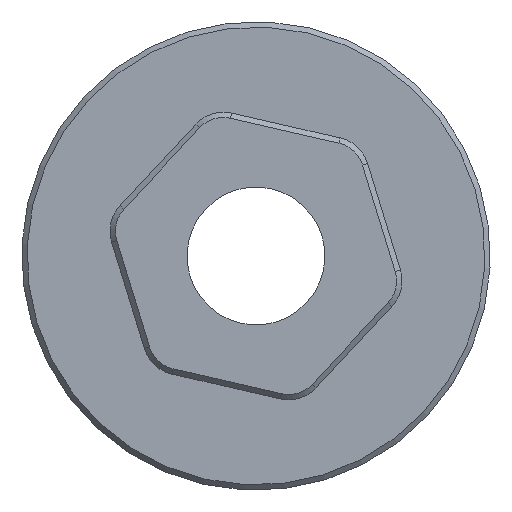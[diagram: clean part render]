
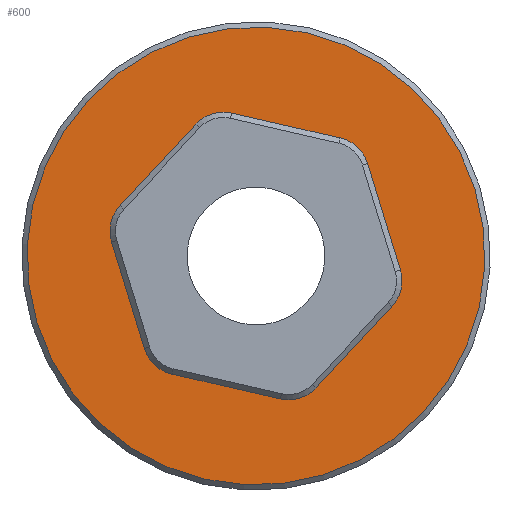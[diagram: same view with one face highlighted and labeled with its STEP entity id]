
A CAD part, left-side view. The second image highlights one B-rep face of the part: STEP entity #600.
In plain terms, the highlighted planar face has unit normal (-1, 0, 0).
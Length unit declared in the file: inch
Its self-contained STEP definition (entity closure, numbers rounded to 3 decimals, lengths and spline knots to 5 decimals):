
#28=FACE_BOUND('',#212,.T.);
#33=PLANE('',#670);
#54=LINE('',#973,#104);
#55=LINE('',#977,#105);
#56=LINE('',#981,#106);
#57=LINE('',#985,#107);
#58=LINE('',#989,#108);
#59=LINE('',#993,#109);
#104=VECTOR('',#785,0.3937);
#105=VECTOR('',#788,0.3937);
#106=VECTOR('',#791,0.3937);
#107=VECTOR('',#794,0.3937);
#108=VECTOR('',#797,0.3937);
#109=VECTOR('',#800,0.3937);
#169=FACE_OUTER_BOUND('',#211,.T.);
#211=EDGE_LOOP('',(#460));
#212=EDGE_LOOP('',(#461,#462,#463,#464,#465,#466,#467,#468,#469,#470,#471,
#472));
#256=CIRCLE('',#669,0.4275);
#257=CIRCLE('',#671,0.07);
#258=CIRCLE('',#672,0.07);
#259=CIRCLE('',#673,0.07);
#260=CIRCLE('',#674,0.07);
#261=CIRCLE('',#675,0.07);
#262=CIRCLE('',#676,0.07);
#290=VERTEX_POINT('',#967);
#291=VERTEX_POINT('',#971);
#292=VERTEX_POINT('',#972);
#293=VERTEX_POINT('',#974);
#294=VERTEX_POINT('',#976);
#295=VERTEX_POINT('',#978);
#296=VERTEX_POINT('',#980);
#297=VERTEX_POINT('',#982);
#298=VERTEX_POINT('',#984);
#299=VERTEX_POINT('',#986);
#300=VERTEX_POINT('',#988);
#301=VERTEX_POINT('',#990);
#302=VERTEX_POINT('',#992);
#350=EDGE_CURVE('',#290,#290,#256,.T.);
#352=EDGE_CURVE('',#291,#292,#54,.T.);
#353=EDGE_CURVE('',#293,#292,#257,.F.);
#354=EDGE_CURVE('',#293,#294,#55,.T.);
#355=EDGE_CURVE('',#295,#294,#258,.F.);
#356=EDGE_CURVE('',#295,#296,#56,.T.);
#357=EDGE_CURVE('',#297,#296,#259,.F.);
#358=EDGE_CURVE('',#297,#298,#57,.T.);
#359=EDGE_CURVE('',#299,#298,#260,.F.);
#360=EDGE_CURVE('',#299,#300,#58,.T.);
#361=EDGE_CURVE('',#301,#300,#261,.F.);
#362=EDGE_CURVE('',#301,#302,#59,.T.);
#363=EDGE_CURVE('',#291,#302,#262,.F.);
#460=ORIENTED_EDGE('',*,*,#350,.F.);
#461=ORIENTED_EDGE('',*,*,#352,.T.);
#462=ORIENTED_EDGE('',*,*,#353,.F.);
#463=ORIENTED_EDGE('',*,*,#354,.T.);
#464=ORIENTED_EDGE('',*,*,#355,.F.);
#465=ORIENTED_EDGE('',*,*,#356,.T.);
#466=ORIENTED_EDGE('',*,*,#357,.F.);
#467=ORIENTED_EDGE('',*,*,#358,.T.);
#468=ORIENTED_EDGE('',*,*,#359,.F.);
#469=ORIENTED_EDGE('',*,*,#360,.T.);
#470=ORIENTED_EDGE('',*,*,#361,.F.);
#471=ORIENTED_EDGE('',*,*,#362,.T.);
#472=ORIENTED_EDGE('',*,*,#363,.F.);
#600=ADVANCED_FACE('',(#169,#28),#33,.F.);
#669=AXIS2_PLACEMENT_3D('',#968,#780,#781);
#670=AXIS2_PLACEMENT_3D('',#970,#783,#784);
#671=AXIS2_PLACEMENT_3D('',#975,#786,#787);
#672=AXIS2_PLACEMENT_3D('',#979,#789,#790);
#673=AXIS2_PLACEMENT_3D('',#983,#792,#793);
#674=AXIS2_PLACEMENT_3D('',#987,#795,#796);
#675=AXIS2_PLACEMENT_3D('',#991,#798,#799);
#676=AXIS2_PLACEMENT_3D('',#994,#801,#802);
#780=DIRECTION('center_axis',(1.,0.,0.));
#781=DIRECTION('ref_axis',(0.,0.733,0.681));
#783=DIRECTION('center_axis',(1.,0.,0.));
#784=DIRECTION('ref_axis',(0.,-0.733,-0.681));
#785=DIRECTION('',(0.,-0.681,0.733));
#786=DIRECTION('center_axis',(1.,0.,0.));
#787=DIRECTION('ref_axis',(0.,0.294,0.956));
#788=DIRECTION('',(0.,-0.975,-0.223));
#789=DIRECTION('center_axis',(1.,0.,0.));
#790=DIRECTION('ref_axis',(0.,-0.681,0.733));
#791=DIRECTION('',(0.,-0.294,-0.956));
#792=DIRECTION('center_axis',(1.,0.,0.));
#793=DIRECTION('ref_axis',(0.,-0.975,-0.223));
#794=DIRECTION('',(0.,0.681,-0.733));
#795=DIRECTION('center_axis',(1.,0.,0.));
#796=DIRECTION('ref_axis',(0.,-0.294,-0.956));
#797=DIRECTION('',(0.,0.975,0.223));
#798=DIRECTION('center_axis',(1.,0.,0.));
#799=DIRECTION('ref_axis',(0.,0.681,-0.733));
#800=DIRECTION('',(0.,0.294,0.956));
#801=DIRECTION('center_axis',(1.,0.,0.));
#802=DIRECTION('ref_axis',(0.,0.975,0.223));
#967=CARTESIAN_POINT('',(7.73023,0.72618,5.48791));
#968=CARTESIAN_POINT('Origin',(7.73023,1.03933,5.77893));
#970=CARTESIAN_POINT('Origin',(7.73023,1.03933,5.77893));
#971=CARTESIAN_POINT('',(7.73023,1.2932,5.873));
#972=CARTESIAN_POINT('',(7.73023,1.15171,6.02525));
#973=CARTESIAN_POINT('',(7.73023,1.27158,5.89626));
#974=CARTESIAN_POINT('',(7.73023,1.0848,6.04583));
#975=CARTESIAN_POINT('Origin',(7.73023,1.10043,5.97759));
#976=CARTESIAN_POINT('',(7.73023,0.8822,5.99941));
#977=CARTESIAN_POINT('',(7.73023,1.05385,6.03874));
#978=CARTESIAN_POINT('',(7.73023,0.83093,5.95176));
#979=CARTESIAN_POINT('Origin',(7.73023,0.89783,5.93118));
#980=CARTESIAN_POINT('',(7.73023,0.76982,5.7531));
#981=CARTESIAN_POINT('',(7.73023,0.82159,5.92141));
#982=CARTESIAN_POINT('',(7.73023,0.78545,5.68487));
#983=CARTESIAN_POINT('Origin',(7.73023,0.83673,5.73252));
#984=CARTESIAN_POINT('',(7.73023,0.92695,5.53262));
#985=CARTESIAN_POINT('',(7.73023,0.80707,5.66161));
#986=CARTESIAN_POINT('',(7.73023,0.99385,5.51204));
#987=CARTESIAN_POINT('Origin',(7.73023,0.97822,5.58027));
#988=CARTESIAN_POINT('',(7.73023,1.19645,5.55845));
#989=CARTESIAN_POINT('',(7.73023,1.02481,5.51913));
#990=CARTESIAN_POINT('',(7.73023,1.24773,5.6061));
#991=CARTESIAN_POINT('Origin',(7.73023,1.18082,5.62668));
#992=CARTESIAN_POINT('',(7.73023,1.30883,5.80477));
#993=CARTESIAN_POINT('',(7.73023,1.25706,5.63646));
#994=CARTESIAN_POINT('Origin',(7.73023,1.24192,5.82535));
